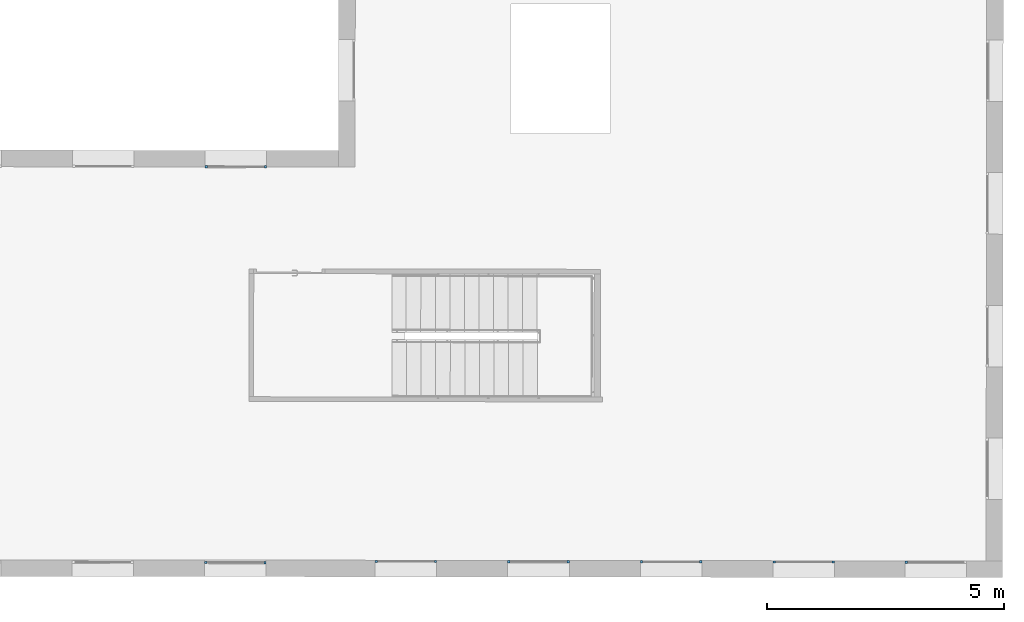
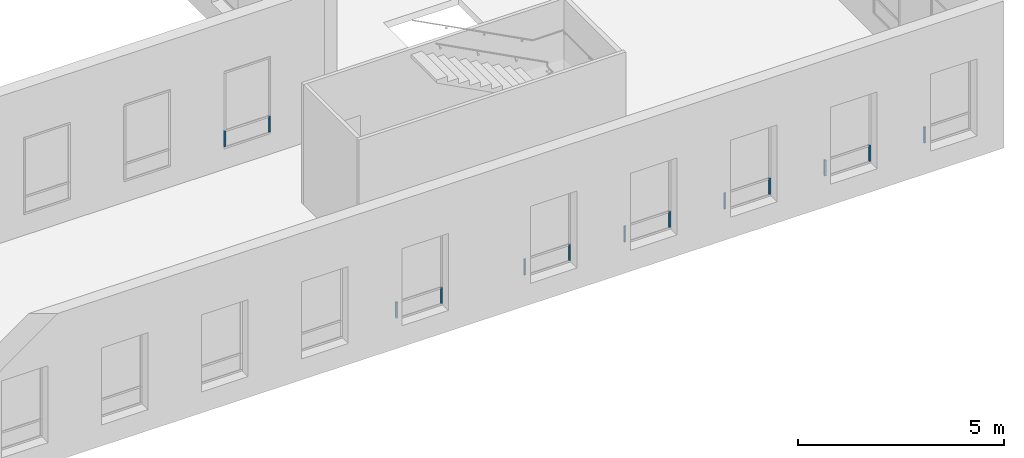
# One storey, part 19 of 35: 13 members, 7 elements without a shape of their own.
"""IFC2X3 building model written with IfcOpenShell, lengths in metres."""

from ifc_helpers import new_model, entity, si_unit, converted_unit, derived_unit, direction, frame, origin, origin_2d_with_axis, place, context, subcontext, project, spatial, rectangle, extrude, source, transform, mapped, material, type_object, type_shapes, element, aggregate, save


model = new_model("IFC2X3")

# Units and contexts
model_context = context("Model", 3, precision=1e-05, world=origin(), true_north=direction((6.123233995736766e-17, 1.0)))
body_context = subcontext(model_context, "Body", "Model", "MODEL_VIEW")
ifc_project = project(units=[si_unit("LENGTHUNIT", "METRE"), si_unit("AREAUNIT", "SQUARE_METRE"), converted_unit("PLANEANGLEUNIT", "DEGREE", entity("IfcPlaneAngleMeasure", 0.017453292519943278), si_unit("PLANEANGLEUNIT", "RADIAN"), dimensions=[0, 0, 0, 0, 0, 0, 0]), derived_unit("THERMALTRANSMITTANCEUNIT", [(si_unit("MASSUNIT", "GRAM", prefix="KILO"), 1), (si_unit("THERMODYNAMICTEMPERATUREUNIT", "KELVIN"), -1), (si_unit("TIMEUNIT", "SECOND"), -3)])], contexts=[model_context])

# Site, building, storey
site_placement = place(None, frame((1253.6752467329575, 2072.143113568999, 91.49999999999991), z_axis=(0.0, 0.0, 1.0), x_axis=(0.7237211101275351, 0.6900925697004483, 0.0)))
site = spatial("IfcSite", under=ifc_project, at=site_placement, Name="Surface", CompositionType="ELEMENT")
building_placement = place(site_placement, origin())
building = spatial("IfcBuilding", under=site, at=building_placement, CompositionType="ELEMENT")
storey_placement = place(building_placement, frame((0.0, 0.0, 3.549999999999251)))
storey = spatial("IfcBuildingStorey", under=building, at=storey_placement, Name="1-R+1", CompositionType="ELEMENT", Elevation=3.549999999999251)

# Curtain wall, member
curtain_wall_type = type_object("IfcCurtainWallType", Name="Mur-rideau:Menuiserie Ext 1F+1OB VERTIC", PredefinedType="NOTDEFINED")
curtain_wall_1_placement = place(storey_placement, frame((0.0, 0.0, -3.549999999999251)))
curtain_wall_1 = element("IfcCurtainWall", 1, at=curtain_wall_1_placement, inside=storey, type_object=curtain_wall_type, Name="Mur-rideau:Menuiserie Ext 1F+1OB VERTIC", ObjectType="Mur-rideau:Menuiserie Ext 1F+1OB VERTIC")
ifc_material = material(Name="OMD_Aluminium Men Ext")
member_type_1 = type_object("IfcMemberType", Name="Meneau rectangulaire:50x50", PredefinedType="MULLION", material=ifc_material)
shared_shape_1 = source(origin(), body_context, "Body", "SweptSolid", [
    extrude(rectangle(XDim=0.05, YDim=0.049999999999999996, at=origin_2d_with_axis()), frame((-0.025, 0.0, -0.4699999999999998), z_axis=(0.0, 0.0, 1.0), x_axis=(-1.0, 0.0, 0.0)), (0.0, 0.0, 1.0), 0.4699999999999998),
])
type_shapes(member_type_1, [shared_shape_1])
member_1_placement = place(curtain_wall_1_placement, frame((178.03940840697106, -28.07279604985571, 4.219999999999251), z_axis=(0.0, 0.0, -1.0), x_axis=(-0.7228702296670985, 0.6909838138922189, 0.0)))
member_1 = element("IfcMember", 2, at=member_1_placement, type_object=member_type_1, material=ifc_material, Name="Meneau rectangulaire:50x50", ObjectType="Meneau rectangulaire:50x50", context=body_context, shape_type="MappedRepresentation", body=[
    mapped(shared_shape_1, transform((0.0, 0.0, 0.0), scale=1.0)),
])
aggregate(curtain_wall_1, [member_1])

curtain_wall_2_placement = place(storey_placement, frame((0.0, 0.0, -3.549999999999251)))
curtain_wall_2 = element("IfcCurtainWall", 3, at=curtain_wall_2_placement, inside=storey, type_object=curtain_wall_type, Name="Mur-rideau:Menuiserie Ext 1F+1OB VERTIC", ObjectType="Mur-rideau:Menuiserie Ext 1F+1OB VERTIC")
member_2_placement = place(curtain_wall_2_placement, frame((176.02153200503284, -26.143929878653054, 4.219999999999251), z_axis=(0.0, 0.0, -1.0), x_axis=(-0.7228702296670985, 0.6909838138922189, 0.0)))
member_2 = element("IfcMember", 4, at=member_2_placement, type_object=member_type_1, material=ifc_material, Name="Meneau rectangulaire:50x50", ObjectType="Meneau rectangulaire:50x50", context=body_context, shape_type="MappedRepresentation", body=[
    mapped(shared_shape_1, transform((0.0, 0.0, 0.0), scale=1.0)),
])

curtain_wall_3_placement = place(storey_placement, frame((0.0, 0.0, -3.549999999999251)))
curtain_wall_3 = element("IfcCurtainWall", 5, at=curtain_wall_3_placement, inside=storey, type_object=curtain_wall_type, Name="Mur-rideau:Menuiserie Ext 1F+1OB VERTIC", ObjectType="Mur-rideau:Menuiserie Ext 1F+1OB VERTIC")
member_3_placement = place(curtain_wall_3_placement, frame((173.99749536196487, -24.20917519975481, 4.219999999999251), z_axis=(0.0, 0.0, -1.0), x_axis=(-0.7228702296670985, 0.6909838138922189, 0.0)))
member_3 = element("IfcMember", 6, at=member_3_placement, type_object=member_type_1, material=ifc_material, Name="Meneau rectangulaire:50x50", ObjectType="Meneau rectangulaire:50x50", context=body_context, shape_type="MappedRepresentation", body=[
    mapped(shared_shape_1, transform((0.0, 0.0, 0.0), scale=1.0)),
])

curtain_wall_4_placement = place(storey_placement, frame((0.0, 0.0, -3.549999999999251)))
curtain_wall_4 = element("IfcCurtainWall", 7, at=curtain_wall_4_placement, inside=storey, type_object=curtain_wall_type, Name="Mur-rideau:Menuiserie Ext 1F+1OB VERTIC", ObjectType="Mur-rideau:Menuiserie Ext 1F+1OB VERTIC")
member_4_placement = place(curtain_wall_4_placement, frame((171.97345871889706, -22.27442052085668, 4.219999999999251), z_axis=(0.0, 0.0, -1.0), x_axis=(-0.7228702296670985, 0.6909838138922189, 0.0)))
member_4 = element("IfcMember", 8, at=member_4_placement, type_object=member_type_1, material=ifc_material, Name="Meneau rectangulaire:50x50", ObjectType="Meneau rectangulaire:50x50", context=body_context, shape_type="MappedRepresentation", body=[
    mapped(shared_shape_1, transform((0.0, 0.0, 0.0), scale=1.0)),
])

curtain_wall_5_placement = place(storey_placement, frame((0.0, 0.0, -3.549999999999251)))
curtain_wall_5 = element("IfcCurtainWall", 9, at=curtain_wall_5_placement, inside=storey, type_object=curtain_wall_type, Name="Mur-rideau:Menuiserie Ext 1F+1OB VERTIC", ObjectType="Mur-rideau:Menuiserie Ext 1F+1OB VERTIC")
member_5_placement = place(curtain_wall_5_placement, frame((169.94942207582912, -20.339665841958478, 4.219999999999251), z_axis=(0.0, 0.0, -1.0), x_axis=(-0.7228702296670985, 0.6909838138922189, 0.0)))
member_5 = element("IfcMember", 10, at=member_5_placement, type_object=member_type_1, material=ifc_material, Name="Meneau rectangulaire:50x50", ObjectType="Meneau rectangulaire:50x50", context=body_context, shape_type="MappedRepresentation", body=[
    mapped(shared_shape_1, transform((0.0, 0.0, 0.0), scale=1.0)),
])

curtain_wall_6_placement = place(storey_placement, frame((0.0, 0.0, -3.549999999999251)))
curtain_wall_6 = element("IfcCurtainWall", 11, at=curtain_wall_6_placement, inside=storey, type_object=curtain_wall_type, Name="Mur-rideau:Menuiserie Ext 1F+1OB VERTIC", ObjectType="Mur-rideau:Menuiserie Ext 1F+1OB VERTIC")
member_6_placement = place(curtain_wall_6_placement, frame((167.32772762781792, -17.87235139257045, 4.219999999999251), z_axis=(0.0, 0.0, -1.0), x_axis=(-0.7228702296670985, 0.6909838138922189, 0.0)))
member_6 = element("IfcMember", 12, at=member_6_placement, type_object=member_type_1, material=ifc_material, Name="Meneau rectangulaire:50x50", ObjectType="Meneau rectangulaire:50x50", context=body_context, shape_type="MappedRepresentation", body=[
    mapped(shared_shape_1, transform((0.0, 0.0, 0.0), scale=1.0)),
])

curtain_wall_7_placement = place(storey_placement, frame((0.0, 0.0, -3.549999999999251)))
curtain_wall_7 = element("IfcCurtainWall", 13, at=curtain_wall_7_placement, inside=storey, type_object=curtain_wall_type, Name="Mur-rideau:Menuiserie Ext 1F+1OB VERTIC", ObjectType="Mur-rideau:Menuiserie Ext 1F+1OB VERTIC")
member_7_placement = place(curtain_wall_7_placement, frame((173.1036651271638, -11.830181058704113, 4.219999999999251), z_axis=(0.0, 0.0, -1.0), x_axis=(-0.7228702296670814, 0.6909838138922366, 0.0)))
member_7 = element("IfcMember", 14, at=member_7_placement, type_object=member_type_1, material=ifc_material, Name="Meneau rectangulaire:50x50", ObjectType="Meneau rectangulaire:50x50", context=body_context, shape_type="MappedRepresentation", body=[
    mapped(shared_shape_1, transform((0.0, 0.0, 0.0), scale=1.0)),
])

# Member
member_type_2 = type_object("IfcMemberType", Name="Meneau rectangulaire:50x50", PredefinedType="MULLION", material=ifc_material)
shared_shape_2 = source(origin(), body_context, "Body", "SweptSolid", [
    extrude(rectangle(XDim=0.05, YDim=0.049999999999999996, at=origin_2d_with_axis()), frame((-0.025, 0.0, -0.4699999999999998), z_axis=(0.0, 0.0, 1.0), x_axis=(-1.0, 0.0, 0.0)), (0.0, 0.0, 1.0), 0.4699999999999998),
])
type_shapes(member_type_2, [shared_shape_2])
member_8_placement = place(curtain_wall_2_placement, frame((176.96104348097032, -27.041998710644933, 4.689999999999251), z_axis=(0.0, 0.0, 1.0), x_axis=(0.7228702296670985, -0.6909838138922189, 0.0)))
member_8 = element("IfcMember", 15, at=member_8_placement, type_object=member_type_2, material=ifc_material, Name="Meneau rectangulaire:50x50", ObjectType="Meneau rectangulaire:50x50", context=body_context, shape_type="MappedRepresentation", body=[
    mapped(shared_shape_2, transform((0.0, 0.0, 0.0), scale=1.0)),
])

aggregate(curtain_wall_2, [member_2, member_8])

member_9_placement = place(curtain_wall_3_placement, frame((174.9370068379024, -25.107244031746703, 4.689999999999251), z_axis=(0.0, 0.0, 1.0), x_axis=(0.7228702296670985, -0.6909838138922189, 0.0)))
member_9 = element("IfcMember", 16, at=member_9_placement, type_object=member_type_2, material=ifc_material, Name="Meneau rectangulaire:50x50", ObjectType="Meneau rectangulaire:50x50", context=body_context, shape_type="MappedRepresentation", body=[
    mapped(shared_shape_2, transform((0.0, 0.0, 0.0), scale=1.0)),
])

aggregate(curtain_wall_3, [member_3, member_9])

member_10_placement = place(curtain_wall_4_placement, frame((172.91297019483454, -23.172489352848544, 4.689999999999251), z_axis=(0.0, 0.0, 1.0), x_axis=(0.7228702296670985, -0.6909838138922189, 0.0)))
member_10 = element("IfcMember", 17, at=member_10_placement, type_object=member_type_2, material=ifc_material, Name="Meneau rectangulaire:50x50", ObjectType="Meneau rectangulaire:50x50", context=body_context, shape_type="MappedRepresentation", body=[
    mapped(shared_shape_2, transform((0.0, 0.0, 0.0), scale=1.0)),
])

aggregate(curtain_wall_4, [member_4, member_10])

member_11_placement = place(curtain_wall_5_placement, frame((170.88893355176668, -21.237734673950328, 4.689999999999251), z_axis=(0.0, 0.0, 1.0), x_axis=(0.7228702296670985, -0.6909838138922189, 0.0)))
member_11 = element("IfcMember", 18, at=member_11_placement, type_object=member_type_2, material=ifc_material, Name="Meneau rectangulaire:50x50", ObjectType="Meneau rectangulaire:50x50", context=body_context, shape_type="MappedRepresentation", body=[
    mapped(shared_shape_2, transform((0.0, 0.0, 0.0), scale=1.0)),
])

aggregate(curtain_wall_5, [member_5, member_11])

member_12_placement = place(curtain_wall_6_placement, frame((168.26723910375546, -18.770420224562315, 4.689999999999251), z_axis=(0.0, 0.0, 1.0), x_axis=(0.7228702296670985, -0.6909838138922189, 0.0)))
member_12 = element("IfcMember", 19, at=member_12_placement, type_object=member_type_2, material=ifc_material, Name="Meneau rectangulaire:50x50", ObjectType="Meneau rectangulaire:50x50", context=body_context, shape_type="MappedRepresentation", body=[
    mapped(shared_shape_2, transform((0.0, 0.0, 0.0), scale=1.0)),
])

aggregate(curtain_wall_6, [member_6, member_12])

member_13_placement = place(curtain_wall_7_placement, frame((174.0431766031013, -12.72824989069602, 4.689999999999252), z_axis=(0.0, 0.0, 1.0), x_axis=(0.7228702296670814, -0.6909838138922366, 0.0)))
member_13 = element("IfcMember", 20, at=member_13_placement, type_object=member_type_2, material=ifc_material, Name="Meneau rectangulaire:50x50", ObjectType="Meneau rectangulaire:50x50", context=body_context, shape_type="MappedRepresentation", body=[
    mapped(shared_shape_2, transform((0.0, 0.0, 0.0), scale=1.0)),
])

aggregate(curtain_wall_7, [member_7, member_13])

save(model, "model.ifc")
